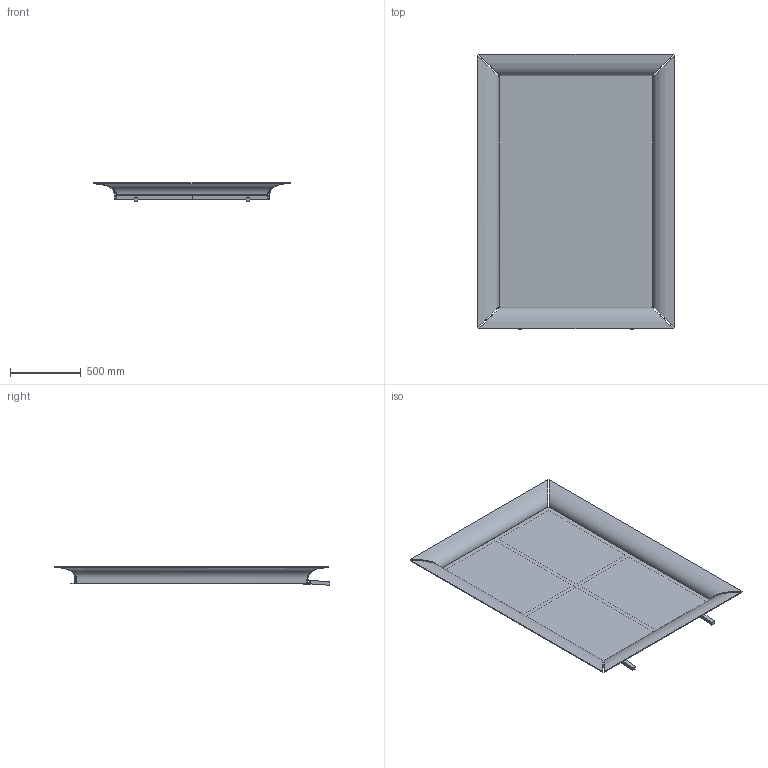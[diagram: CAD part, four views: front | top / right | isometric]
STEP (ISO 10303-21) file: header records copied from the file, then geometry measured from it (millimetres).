
FILE_DESCRIPTION(/* description */ (''),/* implementation_level */ '2;1');
FILE_NAME(/* name */ '640 - Caadre - 140x195 da terra',/* time_stamp */ '2012-06-15T11:40:46+02:00',/* author */ (''),/* organization */ (''),/* preprocessor_version */ 'ST-DEVELOPER v10',/* originating_system */ '',/* authorisation */ '');
FILE_SCHEMA (('CONFIG_CONTROL_DESIGN'));
Length unit declared in the file: centimetre
Products named in the file (1): 1
Bounding box: 1394 x 1950.66 x 131.13 mm (x, y, z)
Volume: 24058249.8 mm3; surface area: 7274450.1 mm2
Topology: 11 solids, 11 shells, 113 faces, 265 edges, 166 vertices
Faces by surface type: bspline 57, plane 56
Entity records: 3956 total; most frequent: CARTESIAN_POINT 2050, ORIENTED_EDGE 530, EDGE_CURVE 265, B_SPLINE_CURVE_WITH_KNOTS 265, VERTEX_POINT 166, EDGE_LOOP 115, ADVANCED_FACE 113, FACE_OUTER_BOUND 113
